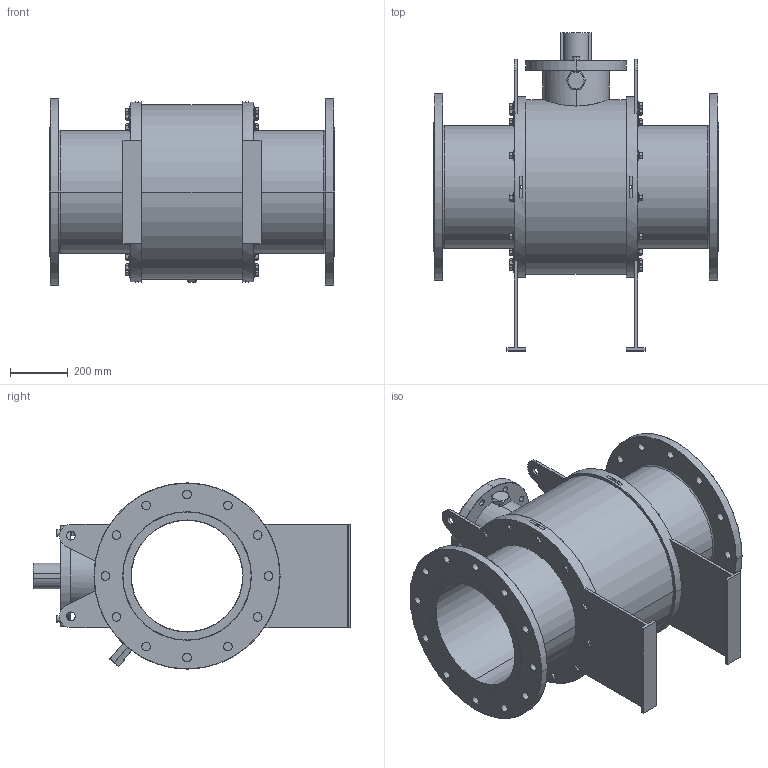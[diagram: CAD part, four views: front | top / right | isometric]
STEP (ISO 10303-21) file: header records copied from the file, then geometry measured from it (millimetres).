
FILE_DESCRIPTION (( 'STEP AP203' ), '1' );
FILE_NAME ('GB2_ANSI_600_16IN_TW.STEP', '2025-10-09T13:37:41', ( '' ), ( '' ), 'SwSTEP 2.0', 'SolidWorks 2025', '' );
FILE_SCHEMA (( 'CONFIG_CONTROL_DESIGN' ));
Length unit declared in the file: millimetre
Products named in the file (3): GB2_ANSI_2500_1500_ANSI_600_16IN; hex flange screw_am_B18.2.3.4M - Hex flange screw, M16 x 2.0 x 25 --25N; GB2_ANSI_600_16IN_TW
Assembly tree (25 placements, depth 2):
  GB2_ANSI_600_16IN_TW
    GB2_ANSI_2500_1500_ANSI_600_16IN
    hex flange screw_am_B18.2.3.4M - Hex flange screw, M16 x 2.0 x 25 --25N  x24
Bounding box: 991 x 1105.5 x 647.4 mm (x, y, z)
Volume: 112160444.4 mm3; surface area: 5050396.4 mm2
Topology: 25 solids, 25 shells, 1041 faces, 2326 edges, 1392 vertices
Faces by surface type: plane 325, cone 270, cylinder 230, bspline 156, torus 54, sphere 6
Entity records: 14001 total; most frequent: CARTESIAN_POINT 3984, DIRECTION 2022, ORIENTED_EDGE 1792, EDGE_CURVE 896, AXIS2_PLACEMENT_3D 820, VERTEX_POINT 562, EDGE_LOOP 492, CIRCLE 436
